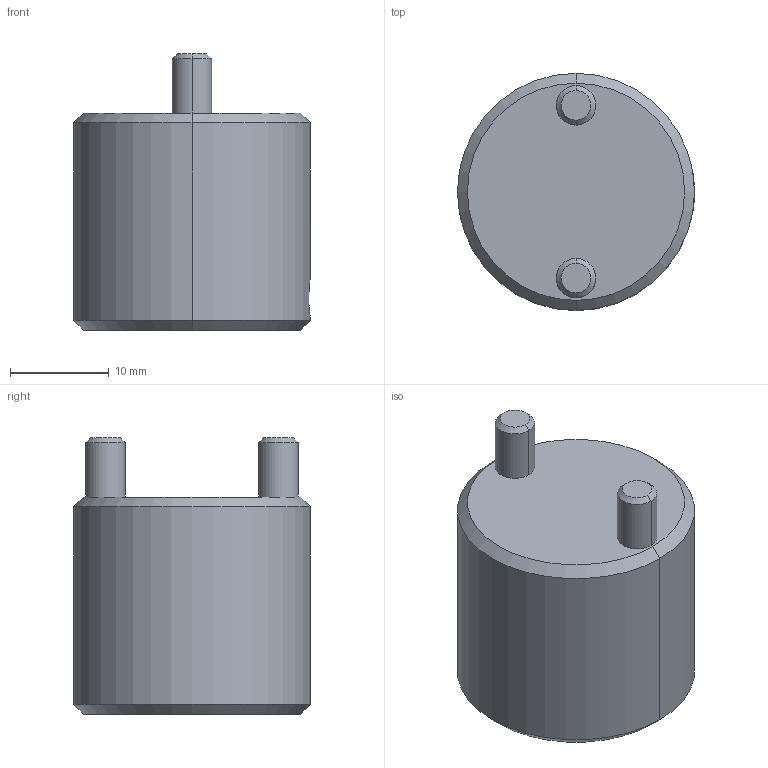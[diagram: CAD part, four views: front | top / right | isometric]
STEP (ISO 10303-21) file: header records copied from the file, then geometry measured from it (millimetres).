
FILE_DESCRIPTION((''),'2;1');
FILE_NAME('CS2012','2018-01-21T',('MANU'),(''),'PRO/ENGINEER BY PARAMETRIC TECHNOLOGY CORPORATION, 2012130','PRO/ENGINEER BY PARAMETRIC TECHNOLOGY CORPORATION, 2012130','');
FILE_SCHEMA(('CONFIG_CONTROL_DESIGN'));
Length unit declared in the file: millimetre
Products named in the file (1): CS2012
Bounding box: 24 x 24 x 28 mm (x, y, z)
Volume: 7909.1 mm3; surface area: 3343.5 mm2
Topology: 1 solids, 1 shells, 23 faces, 47 edges, 28 vertices
Faces by surface type: cylinder 10, cone 8, plane 5
Entity records: 729 total; most frequent: CARTESIAN_POINT 194, DIRECTION 109, ORIENTED_EDGE 94, EDGE_CURVE 47, AXIS2_PLACEMENT_3D 45, VERTEX_POINT 28, EDGE_LOOP 27, FACE_OUTER_BOUND 23
